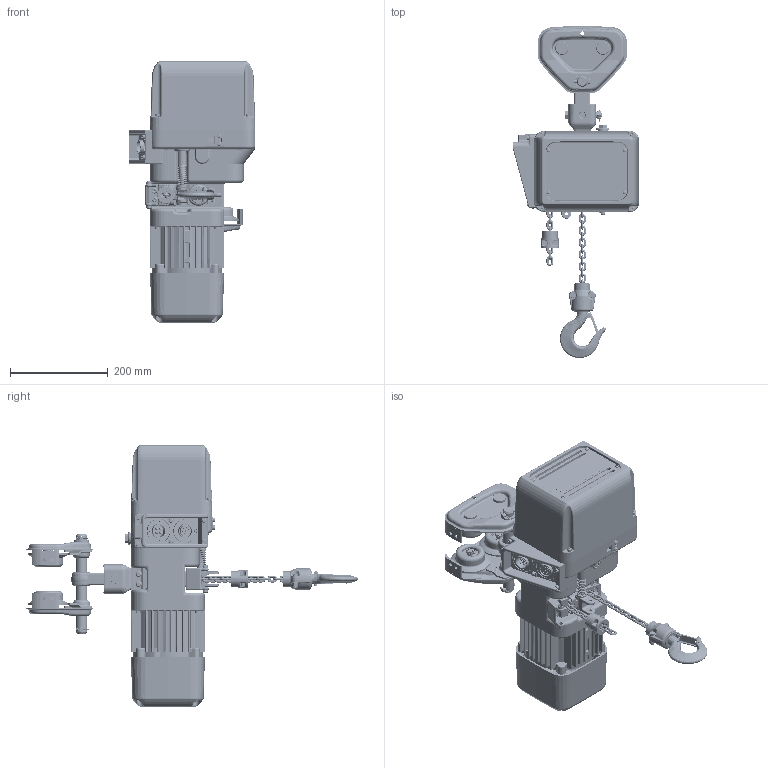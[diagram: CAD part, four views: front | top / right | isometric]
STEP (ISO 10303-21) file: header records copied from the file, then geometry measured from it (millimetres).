
FILE_DESCRIPTION (( 'STEP AP214' ), '1' );
FILE_NAME ('NER2P003SD.STEP', '2026-08-11T14:40:18', ( '' ), ( '' ), 'SwSTEP 2.0', 'SolidWorks 2026', '' );
FILE_SCHEMA (( 'AUTOMOTIVE_DESIGN' ));
Length unit declared in the file: inch
Products named in the file (72): T6PA0059113; ER2BS9053; 9009413_9009413; M6F554010; L3183008; ER2BI9185_ER2BI9185; T3P154020_T3P154020; NER2003SD_FOR MANUAL PUSH TROLLEY; J1NA001-20060_B18.2.4.1M - Hex nut, Style 1,  M6 x 1 --D-C; T6G5102005; ER2CS1002; ER2BS9105; ER2BHM03I9A51; ER2BS1011; ER2BS9107; 9091233_9091233; ES558003; 9091252_B18.3.1M - 6 x 1.0 x 30 Hex SHCS -- 30CHX; 9009414-5_9009414-5; ES127005S; ER2CS9027; ER2BS9332; ER2BS9331; ER2BS9101; E3S112003; 9091251_9091251; T6PA0059102; T7PA0059141; T6G800005P; T6PA0059112; ER1CS9032; LCER2003NP (SHAPED); ER2BS9015; T7GB004010; J1BY9-0602525_B18.2.3.1M - Hex cap screw, M6 x 1.0 x 25 --25C; T7G117005; LCER2003NP; ER2CS9121; ER2BS2015; 6202Z Bearing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
Assembly tree (157 placements, depth 5):
  NER2P003SD
    PTS2005_3.332" FLANGE (S6X12.5)
      T7PA0055112  x2
        T6PA0059112
        T6PA0059103
        T6PA0059113
        T7PA0059141
        T7PA0059142
      T7G115005
      T6G5102005  x4
        T6PA0059102
        6202Z Bearing
      9009413_9009413  x4
      T7G117005
      T6G156005  x2
      split pin (metric) as  x2
      T6G800005P
      T3P154020_T3P154020  x4
    NER2003SD_FOR MANUAL PUSH TROLLEY
      ER2BS9101
      ER2BS9105
      ER2BS9107
      9091234_B18.3.1M - 5 x 0.8 x 45 Hex SHCS -- 22CHX  x4
      9091252_B18.3.1M - 6 x 1.0 x 30 Hex SHCS -- 30CHX  x4
      E3S111003  x2
      E3S112003  x2
      ER2CS9121  x2
      ER2CS9186
      ER2CS9123
      J1BG10601212_B18.3.1M - 6 x 1.0 x 12 Hex SHCS -- 12CHX
      ER2BS9331
      ER2BS9338
      ER2BS9337
      ER2CS9357
      ER2BS1011
        ER2BS9011
        ER2CS1002
        ER2BS2015
          ER2BS9015  x2
          J1BY9-0602525_B18.2.3.1M - Hex cap screw, M6 x 1.0 x 25 --25C  x2
          J1WS011-20060_Rectangular section spring washer BS 4464 - 16 (Type B)  x2
          J1NA001-20060_B18.2.4.1M - Hex nut, Style 1,  M6 x 1 --D-C  x2
      LCER2003NP
        LCER2003NP  x18
      ER2BS9053  x2
      9091251_9091251  x4
      9012709_Rectangular section spring washer BS 4464 - 16 (Type B)  x4
      ER2CS9511
      ER2CS2523
      ER2CS2564
      LCER2003NP (SHAPED)
        LCER2003NP  x14
      ES1045003
      ER1BS9135
      ES558003  x8
      MS561010  x6
      ES127005S
      ER1BS9535
      M6F554010  x2
      ER2BI2104
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Bounding box: 260 x 679.71 x 534.5 mm (x, y, z)
Volume: 11904343.3 mm3; surface area: 1390047.2 mm2
Topology: 169 solids, 185 shells, 8612 faces, 22394 edges, 14306 vertices
Faces by surface type: plane 3562, cylinder 2719, torus 1027, cone 631, bspline 611, sphere 62
Entity records: 197722 total; most frequent: CARTESIAN_POINT 64359, ORIENTED_EDGE 27202, DIRECTION 26482, EDGE_CURVE 13603, AXIS2_PLACEMENT_3D 10176, VERTEX_POINT 8792, VECTOR 6130, LINE 6130
